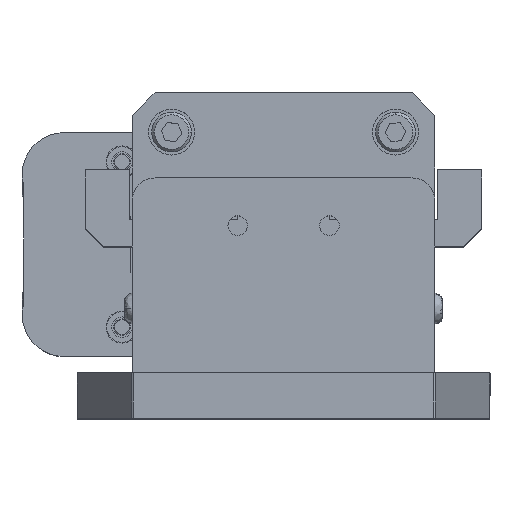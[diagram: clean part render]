
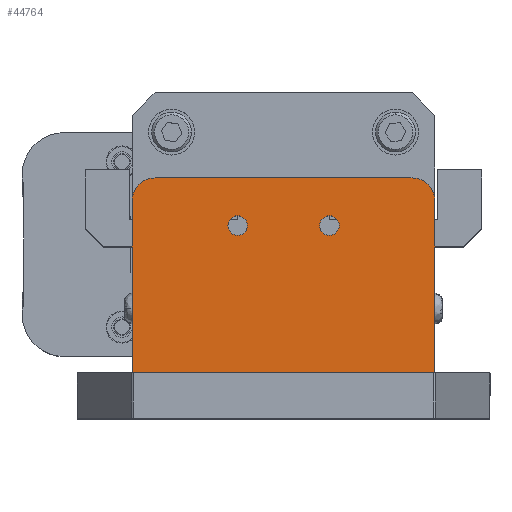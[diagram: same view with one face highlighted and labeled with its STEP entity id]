
A CAD part, top view. The second image highlights one B-rep face of the part: STEP entity #44764.
In plain terms, the highlighted planar face has unit normal (0, 0, 1).
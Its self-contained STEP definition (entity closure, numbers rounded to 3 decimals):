
#436 = VERTEX_POINT ( 'NONE', #21872 ) ;
#1825 = CIRCLE ( 'NONE', #27695, 3.175 ) ;
#2522 = CARTESIAN_POINT ( 'NONE',  ( 41.91, 30.099, 83.82 ) ) ;
#4262 = VERTEX_POINT ( 'NONE', #31562 ) ;
#5154 = DIRECTION ( 'NONE',  ( 1., 0., 0. ) ) ;
#5166 = DIRECTION ( 'NONE',  ( 0., 0., -1. ) ) ;
#5448 = CARTESIAN_POINT ( 'NONE',  ( 27.305, 26.67, 83.82 ) ) ;
#5620 = VECTOR ( 'NONE', #47305, 1000. ) ;
#6698 = VERTEX_POINT ( 'NONE', #18703 ) ;
#6985 = CARTESIAN_POINT ( 'NONE',  ( 41.91, 33.274, 83.82 ) ) ;
#7043 = DIRECTION ( 'NONE',  ( 0., 1., 0. ) ) ;
#12749 = DIRECTION ( 'NONE',  ( 1., 0., 0. ) ) ;
#12760 = DIRECTION ( 'NONE',  ( 0., 0., 1. ) ) ;
#12811 = CARTESIAN_POINT ( 'NONE',  ( 38.735, 30.099, 83.82 ) ) ;
#12889 = AXIS2_PLACEMENT_3D ( 'NONE', #28992, #28773, #28709 ) ;
#13069 = CARTESIAN_POINT ( 'NONE',  ( 0., 6.35, 83.82 ) ) ;
#13947 = CARTESIAN_POINT ( 'NONE',  ( 15.958, 26.67, 83.82 ) ) ;
#15872 = VECTOR ( 'NONE', #42619, 1000. ) ;
#16566 = LINE ( 'NONE', #47354, #5620 ) ;
#18129 = VERTEX_POINT ( 'NONE', #29542 ) ;
#18703 = CARTESIAN_POINT ( 'NONE',  ( 41.91, 6.35, 83.82 ) ) ;
#19622 = FACE_BOUND ( 'NONE', #41775, .T. ) ;
#20928 = FACE_BOUND ( 'NONE', #40897, .T. ) ;
#21872 = CARTESIAN_POINT ( 'NONE',  ( 25.952, 26.67, 83.82 ) ) ;
#22010 = AXIS2_PLACEMENT_3D ( 'NONE', #29278, #29223, #29167 ) ;
#22298 = CIRCLE ( 'NONE', #22010, 1.353 ) ;
#22719 = VERTEX_POINT ( 'NONE', #13947 ) ;
#22933 = AXIS2_PLACEMENT_3D ( 'NONE', #34762, #34691, #34674 ) ;
#24760 = LINE ( 'NONE', #36439, #35733 ) ;
#25471 = CIRCLE ( 'NONE', #30449, 1.353 ) ;
#27695 = AXIS2_PLACEMENT_3D ( 'NONE', #44958, #44914, #44901 ) ;
#28709 = DIRECTION ( 'NONE',  ( 1., 0., 0. ) ) ;
#28773 = DIRECTION ( 'NONE',  ( 0., 0., 1. ) ) ;
#28874 = PLANE ( 'NONE',  #12889 ) ;
#28992 = CARTESIAN_POINT ( 'NONE',  ( 41.91, 33.274, 83.82 ) ) ;
#29088 = VERTEX_POINT ( 'NONE', #40115 ) ;
#29167 = DIRECTION ( 'NONE',  ( 1., 0., 0. ) ) ;
#29223 = DIRECTION ( 'NONE',  ( 0., 0., -1. ) ) ;
#29278 = CARTESIAN_POINT ( 'NONE',  ( 14.605, 26.67, 83.82 ) ) ;
#29414 = AXIS2_PLACEMENT_3D ( 'NONE', #5448, #5166, #5154 ) ;
#29542 = CARTESIAN_POINT ( 'NONE',  ( 3.175, 33.274, 83.82 ) ) ;
#30449 = AXIS2_PLACEMENT_3D ( 'NONE', #51059, #51042, #51000 ) ;
#30491 = FACE_OUTER_BOUND ( 'NONE', #40076, .T. ) ;
#31248 = CIRCLE ( 'NONE', #29414, 1.353 ) ;
#31562 = CARTESIAN_POINT ( 'NONE',  ( 13.252, 26.67, 83.82 ) ) ;
#32892 = VERTEX_POINT ( 'NONE', #53132 ) ;
#33363 = VERTEX_POINT ( 'NONE', #40859 ) ;
#34674 = DIRECTION ( 'NONE',  ( 1., 0., 0. ) ) ;
#34691 = DIRECTION ( 'NONE',  ( 0., 0., -1. ) ) ;
#34762 = CARTESIAN_POINT ( 'NONE',  ( 27.305, 26.67, 83.82 ) ) ;
#35733 = VECTOR ( 'NONE', #36260, 1000. ) ;
#36260 = DIRECTION ( 'NONE',  ( 1., 0., 0. ) ) ;
#36412 = LINE ( 'NONE', #6985, #46255 ) ;
#36439 = CARTESIAN_POINT ( 'NONE',  ( 41.91, 6.35, 83.82 ) ) ;
#36453 = AXIS2_PLACEMENT_3D ( 'NONE', #12811, #12760, #12749 ) ;
#38394 = CIRCLE ( 'NONE', #36453, 3.175 ) ;
#40076 = EDGE_LOOP ( 'NONE', ( #41751, #43856, #44675, #45674, #45933, #46463 ) ) ;
#40115 = CARTESIAN_POINT ( 'NONE',  ( 38.735, 33.274, 83.82 ) ) ;
#40859 = CARTESIAN_POINT ( 'NONE',  ( 28.658, 26.67, 83.82 ) ) ;
#40897 = EDGE_LOOP ( 'NONE', ( #47334, #48085 ) ) ;
#41534 = VERTEX_POINT ( 'NONE', #13069 ) ;
#41751 = ORIENTED_EDGE ( 'NONE', *, *, #49434, .T. ) ;
#41775 = EDGE_LOOP ( 'NONE', ( #48850, #49595 ) ) ;
#42262 = CIRCLE ( 'NONE', #22933, 1.353 ) ;
#42570 = EDGE_CURVE ( 'NONE', #33363, #436, #42262, .T. ) ;
#42619 = DIRECTION ( 'NONE',  ( 0., -1., 0. ) ) ;
#42796 = CARTESIAN_POINT ( 'NONE',  ( 0., 33.274, 83.82 ) ) ;
#42811 = EDGE_CURVE ( 'NONE', #22719, #4262, #22298, .T. ) ;
#43856 = ORIENTED_EDGE ( 'NONE', *, *, #49190, .T. ) ;
#44675 = ORIENTED_EDGE ( 'NONE', *, *, #50178, .T. ) ;
#44764 = ADVANCED_FACE ( 'NONE', ( #30491, #20928, #19622 ), #28874, .T. ) ;
#44901 = DIRECTION ( 'NONE',  ( 1., 0., 0. ) ) ;
#44914 = DIRECTION ( 'NONE',  ( 0., 0., 1. ) ) ;
#44958 = CARTESIAN_POINT ( 'NONE',  ( 3.175, 30.099, 83.82 ) ) ;
#45674 = ORIENTED_EDGE ( 'NONE', *, *, #50253, .T. ) ;
#45933 = ORIENTED_EDGE ( 'NONE', *, *, #50340, .T. ) ;
#46255 = VECTOR ( 'NONE', #7043, 1000. ) ;
#46463 = ORIENTED_EDGE ( 'NONE', *, *, #50576, .T. ) ;
#47305 = DIRECTION ( 'NONE',  ( -1., 0., 0. ) ) ;
#47307 = VERTEX_POINT ( 'NONE', #2522 ) ;
#47334 = ORIENTED_EDGE ( 'NONE', *, *, #42570, .T. ) ;
#47354 = CARTESIAN_POINT ( 'NONE',  ( 41.91, 33.274, 83.82 ) ) ;
#48085 = ORIENTED_EDGE ( 'NONE', *, *, #50098, .T. ) ;
#48850 = ORIENTED_EDGE ( 'NONE', *, *, #42811, .T. ) ;
#48885 = LINE ( 'NONE', #42796, #15872 ) ;
#49190 = EDGE_CURVE ( 'NONE', #47307, #29088, #38394, .T. ) ;
#49434 = EDGE_CURVE ( 'NONE', #6698, #47307, #36412, .T. ) ;
#49595 = ORIENTED_EDGE ( 'NONE', *, *, #50024, .T. ) ;
#50024 = EDGE_CURVE ( 'NONE', #4262, #22719, #25471, .T. ) ;
#50098 = EDGE_CURVE ( 'NONE', #436, #33363, #31248, .T. ) ;
#50178 = EDGE_CURVE ( 'NONE', #29088, #18129, #16566, .T. ) ;
#50253 = EDGE_CURVE ( 'NONE', #18129, #32892, #1825, .T. ) ;
#50340 = EDGE_CURVE ( 'NONE', #32892, #41534, #48885, .T. ) ;
#50576 = EDGE_CURVE ( 'NONE', #41534, #6698, #24760, .T. ) ;
#51000 = DIRECTION ( 'NONE',  ( 1., 0., 0. ) ) ;
#51042 = DIRECTION ( 'NONE',  ( 0., 0., -1. ) ) ;
#51059 = CARTESIAN_POINT ( 'NONE',  ( 14.605, 26.67, 83.82 ) ) ;
#53132 = CARTESIAN_POINT ( 'NONE',  ( 0., 30.099, 83.82 ) ) ;
